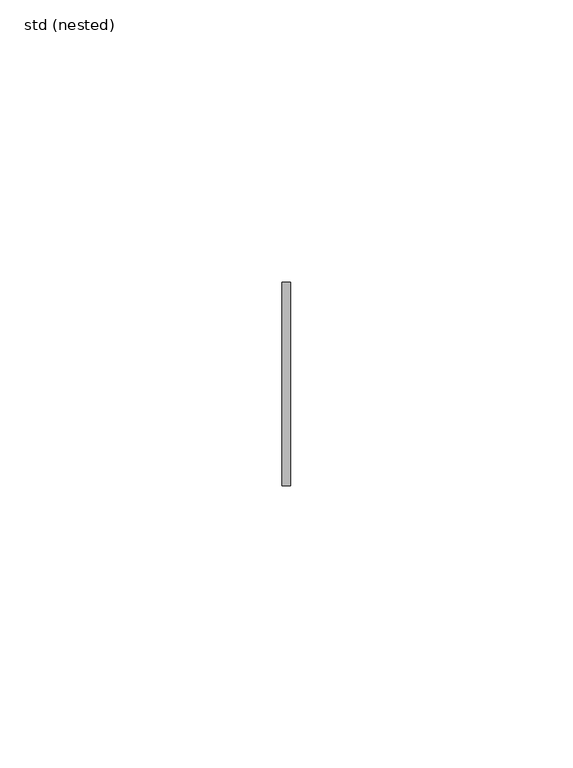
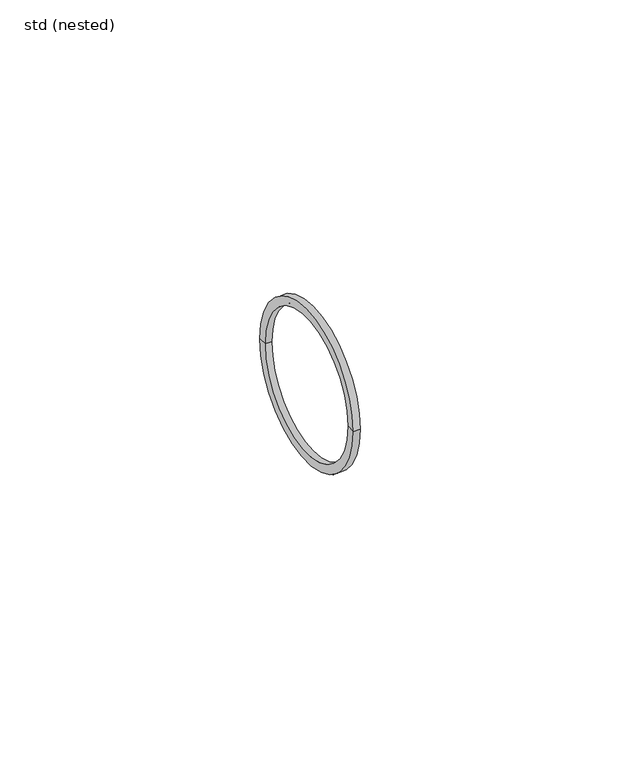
"""IFC4 building model written with IfcOpenShell, lengths in millimetres: pipe fitting geometry, ZZZ_do not use_PIF_ST_UN_GM-X seal non transitional_ACO : std (nested)."""

from ifc_helpers import new_model, si_unit, frame, origin, place, context, project, spatial, polyline, circle_curve, source, transform, mapped, element, save
from ifc_brep_helpers import plane_surface, cylinder_surface, revolved_surface, advanced_brep


def std_nested_ec2a7507(model_context):
    return source(origin(), model_context, "Body", "AdvancedBrep", [
        advanced_brep(
        [(0.0, -18.0, 0.0), (0.0, 18.0, 0.0), (1.5, 18.0, 0.0), (1.5, -18.0, 0.0), (0.0, -16.0, 0.0), (0.0, 16.0, 0.0), (1.5, -16.0, 0.0), (1.5, 16.0, 0.0)],
        [
            (0, 1, circle_curve(frame((0.0, 0.0, 0.0), z_axis=(1.0, 0.0, 0.0), x_axis=(0.0, 1.0, 0.0)), 18.0)),
            (1, 2),
            (2, 3, circle_curve(frame((1.5, 0.0, 0.0), z_axis=(-1.0, 0.0, 0.0), x_axis=(0.0, 1.0, 0.0)), 18.0)),
            (3, 0),
            (1, 0, circle_curve(frame((0.0, 0.0, 0.0), z_axis=(1.0, 0.0, 0.0), x_axis=(0.0, 1.0, 0.0)), 18.0)),
            (3, 2, circle_curve(frame((1.5, 0.0, 0.0), z_axis=(-1.0, 0.0, 0.0), x_axis=(0.0, 1.0, 0.0)), 18.0)),
            (4, 5, circle_curve(frame((0.0, 0.0, 0.0), z_axis=(1.0, 0.0, 0.0), x_axis=(0.0, 1.0, 0.0)), 16.0)),
            (5, 1),
            (0, 4),
            (5, 4, circle_curve(frame((0.0, 0.0, 0.0), z_axis=(1.0, 0.0, 0.0), x_axis=(0.0, 1.0, 0.0)), 16.0)),
            (6, 7, circle_curve(frame((1.5, 0.0, 0.0), z_axis=(1.0, 0.0, 0.0), x_axis=(0.0, 1.0, 0.0)), 16.0)),
            (7, 5),
            (4, 6),
            (7, 6, circle_curve(frame((1.5, 0.0, 0.0), z_axis=(1.0, 0.0, 0.0), x_axis=(0.0, 1.0, 0.0)), 16.0)),
            (2, 7),
            (6, 3),
        ],
        [
            cylinder_surface(frame((-0.8180655, 0.0, 0.0), z_axis=(-1.0, 0.0, 0.0), x_axis=(0.0, 1.0, 0.0)), 18.0),
            plane_surface(frame((0.0, 0.0, 0.0), z_axis=(-1.0, 0.0, 0.0), x_axis=(0.0, 1.0, 0.0))),
            revolved_surface(polyline([(0.0, 16.0, 0.0), (1.5, 16.0, 0.0)]), (-0.8180655, 0.0, 0.0), (-1.0, 0.0, 0.0)),
            plane_surface(frame((1.5, 0.0, 0.0), z_axis=(1.0, 0.0, 0.0), x_axis=(0.0, 1.0, 0.0))),
        ],
        [
            (0, [[1, 2, 3, 4]]),
            (0, [[5, -4, 6, -2]]),
            (1, [[7, 8, -1, 9]]),
            (1, [[10, -9, -5, -8]]),
            (2, [[11, 12, -7, 13]]),
            (2, [[14, -13, -10, -12]]),
            (3, [[-3, 15, -11, 16]]),
            (3, [[-6, -16, -14, -15]]),
        ],
    ),
    ])


if __name__ == "__main__":
    model = new_model("IFC4")
    model_context = context("Model", 3, world=origin())
    ifc_project = project(units=[si_unit("LENGTHUNIT", "METRE", prefix="MILLI")], contexts=[model_context])
    site = spatial("IfcSite", under=ifc_project)
    building = spatial("IfcBuilding", under=site)
    placement = place(None, origin())
    std_nested_shape = std_nested_ec2a7507(model_context)
    element("IfcPipeFitting", 1, ObjectType="ZZZ_do not use_PIF_ST_UN_GM-X seal non transitional_ACO : std (nested)", at=placement, inside=building, context=model_context, shape_type="MappedRepresentation", body=[
        mapped(std_nested_shape, transform((0.0, 0.0, 0.0), x_axis=(1.0, 0.0, 0.0), y_axis=(0.0, 1.0, 0.0), z_axis=(0.0, 0.0, 1.0))),
    ])
    save(model, "model.ifc")
